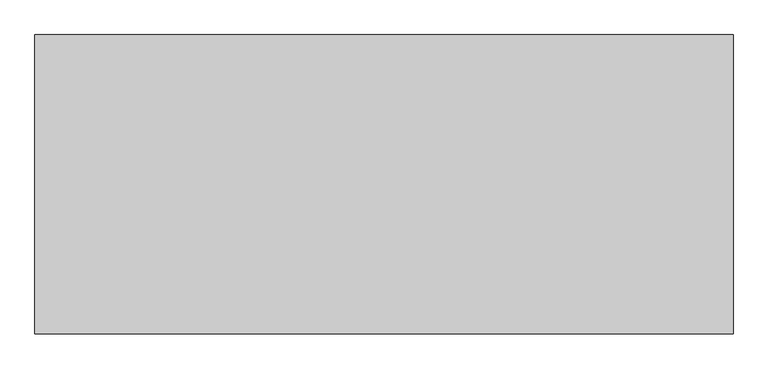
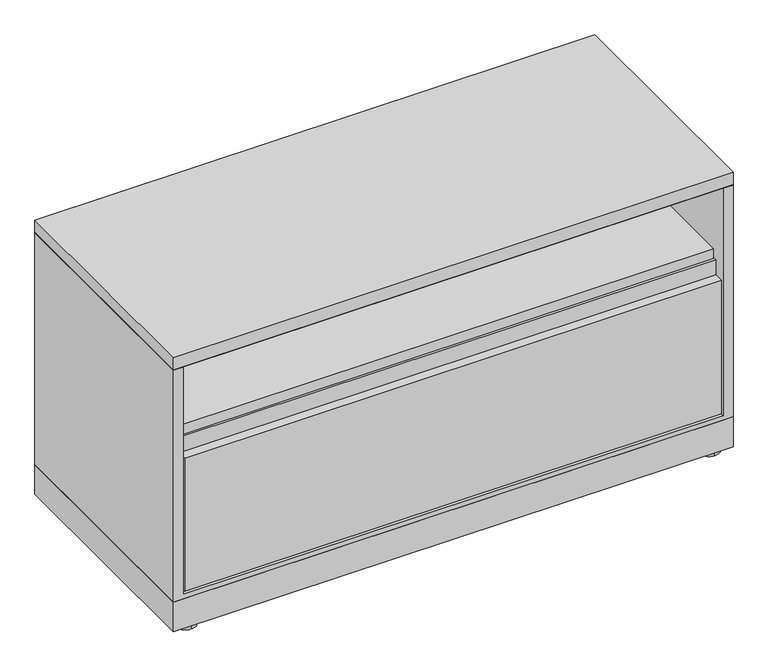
"""IFC4 building model written with IfcOpenShell, lengths in millimetres: furniture geometry, Steelcase - Universal Storage - Lateral File - 1.5 High - Flush Steel : Open/Drawer - 18D x 42W."""

from ifc_helpers import new_model, si_unit, point, frame, frame_2d, origin, origin_with_axes, place, context, project, spatial, polyline, circle_curve, trimmed, segment, composite_curve, outline, extrude, faceted_brep, source, transform, mapped, element, save


def furniture_b3072ac5(model_context):
    return source(origin(), model_context, "Body", "SolidModel", [
        extrude(outline(polyline([(1066.8, 457.2), (1066.8, 0.0), (0.0, 0.0), (0.0, 457.2), (1066.8, 457.2)])), frame((0.0, 0.0, 6.3500002), z_axis=(0.0, 0.0, 1.0), x_axis=(1.0, 0.0, 0.0)), (0.0, 0.0, 1.0), 59.6899998),
        extrude(outline(composite_curve([segment(trimmed(circle_curve(frame_2d((1032.1290058, 434.8633666)), 20.32), [point((1032.1290058, 414.5433666))], [point((1032.1290058, 455.1833666))], False, "CARTESIAN"), True, "CONTINUOUS"), segment(trimmed(circle_curve(frame_2d((1032.1290058, 434.8633666)), 20.32), [point((1032.1290058, 455.1833666))], [point((1032.1290058, 414.5433666))], False, "CARTESIAN"), True, "CONTINUOUS")], self_intersect=False)), origin_with_axes(), (0.0, 0.0, 1.0), 6.3500002),
        extrude(outline(composite_curve([segment(trimmed(circle_curve(frame_2d((1032.1290058, 20.7491455)), 20.32), [point((1032.1290058, 0.4291455))], [point((1032.1290058, 41.0691455))], False, "CARTESIAN"), True, "CONTINUOUS"), segment(trimmed(circle_curve(frame_2d((1032.1290058, 20.7491455)), 20.32), [point((1032.1290058, 41.0691455))], [point((1032.1290058, 0.4291455))], False, "CARTESIAN"), True, "CONTINUOUS")], self_intersect=False)), origin_with_axes(), (0.0, 0.0, 1.0), 6.3500002),
        extrude(outline(composite_curve([segment(trimmed(circle_curve(frame_2d((34.29, 434.8633666)), 20.32), [point((34.29, 455.1833666))], [point((34.29, 414.5433666))], False, "CARTESIAN"), True, "CONTINUOUS"), segment(trimmed(circle_curve(frame_2d((34.29, 434.8633666)), 20.32), [point((34.29, 414.5433666))], [point((34.29, 455.1833666))], False, "CARTESIAN"), True, "CONTINUOUS")], self_intersect=False)), origin_with_axes(), (0.0, 0.0, 1.0), 6.3500002),
        extrude(outline(composite_curve([segment(trimmed(circle_curve(frame_2d((34.29, 20.7491455)), 20.32), [point((34.29, 41.0691455))], [point((34.29, 0.4291455))], False, "CARTESIAN"), True, "CONTINUOUS"), segment(trimmed(circle_curve(frame_2d((34.29, 20.7491455)), 20.32), [point((34.29, 0.4291455))], [point((34.29, 41.0691455))], False, "CARTESIAN"), True, "CONTINUOUS")], self_intersect=False)), origin_with_axes(), (0.0, 0.0, 1.0), 6.3500002),
        extrude(outline(polyline([(437.7944128, 396.7988176), (437.7944128, 410.7687861), (440.969412, 410.7687861), (440.969412, 371.5257963), (26.822418, 371.5257963), (26.822418, 396.7988176), (437.7944128, 396.7988176)])), frame((22.0472, 0.0, 0.0), z_axis=(1.0, 0.0, 0.0), x_axis=(0.0, 1.0, 0.0)), (0.0, 0.0, 1.0), 1022.7056),
        extrude(outline(polyline([(1.45e-05, 534.0350121), (457.2, 534.0350121), (456.4379879, 533.273), (0.7620266, 533.273), (1.45e-05, 534.0350121)])), frame((0.0, 0.0, 0.0), z_axis=(1.0, 0.0, 0.0), x_axis=(0.0, 1.0, 0.0)), (0.0, 0.0, 1.0), 1066.8),
        extrude(outline(polyline([(1066.8, 457.2), (1066.8, 0.0), (0.0, 0.0), (0.0, 457.2), (1066.8, 457.2)])), frame((0.0, 0.0, 534.0350121), z_axis=(0.0, 0.0, 1.0), x_axis=(1.0, 0.0, 0.0)), (0.0, 0.0, 1.0), 24.6379729),
        faceted_brep([(1066.8, 0.0, 66.04), (1066.8, 457.2, 66.04), (1066.8, 457.2, 533.273), (1066.8, 0.0, 533.273), (0.0, 0.0, 533.273), (0.0, 457.2, 533.273), (0.0, 457.2, 66.04), (0.0, 0.0, 66.04), (1047.75, 0.0, 533.273), (1047.75, 0.0, 75.1586), (19.05, 0.0, 75.1586), (19.05, 0.0, 533.273), (19.05, 454.0249999, 533.273), (1047.75, 454.0249999, 533.273), (19.05, 454.0249999, 75.1586), (1047.75, 454.0249999, 75.1586)], [[[0, 1, 2, 3]], [[4, 5, 6, 7]], [[0, 3, 8, 9, 10, 11, 4, 7]], [[2, 1, 6, 5]], [[3, 2, 5, 4, 11, 12, 13, 8]], [[12, 14, 15, 13]], [[14, 12, 11, 10]], [[13, 15, 9, 8]], [[1, 0, 7, 6]], [[10, 9, 15, 14]]]),
        extrude(outline(polyline([(23.6541043, 79.2988025), (1.5178885, 79.2988025), (1.5178885, 348.1577823), (19.3741023, 348.1577823), (19.3741023, 378.7648167), (23.6541043, 378.7648167), (23.6541043, 79.2988025)])), frame((22.0472, 0.0, 0.0), z_axis=(1.0, 0.0, 0.0), x_axis=(0.0, 1.0, 0.0)), (0.0, 0.0, 1.0), 1022.7056),
    ])


if __name__ == "__main__":
    model = new_model("IFC4")
    model_context = context("Model", 3, world=origin())
    ifc_project = project(units=[si_unit("LENGTHUNIT", "METRE", prefix="MILLI")], contexts=[model_context])
    site = spatial("IfcSite", under=ifc_project)
    building = spatial("IfcBuilding", under=site)
    placement = place(None, origin())
    furniture_shape = furniture_b3072ac5(model_context)
    element("IfcFurniture", 1, ObjectType="Steelcase - Universal Storage - Lateral File - 1.5 High - Flush Steel : Open/Drawer - 18D x 42W", at=placement, inside=building, context=model_context, shape_type="MappedRepresentation", body=[
        mapped(furniture_shape, transform((0.0, 0.0, 0.0), x_axis=(1.0, 0.0, 0.0), y_axis=(0.0, 1.0, 0.0), z_axis=(0.0, 0.0, 1.0))),
    ])
    save(model, "model.ifc")
